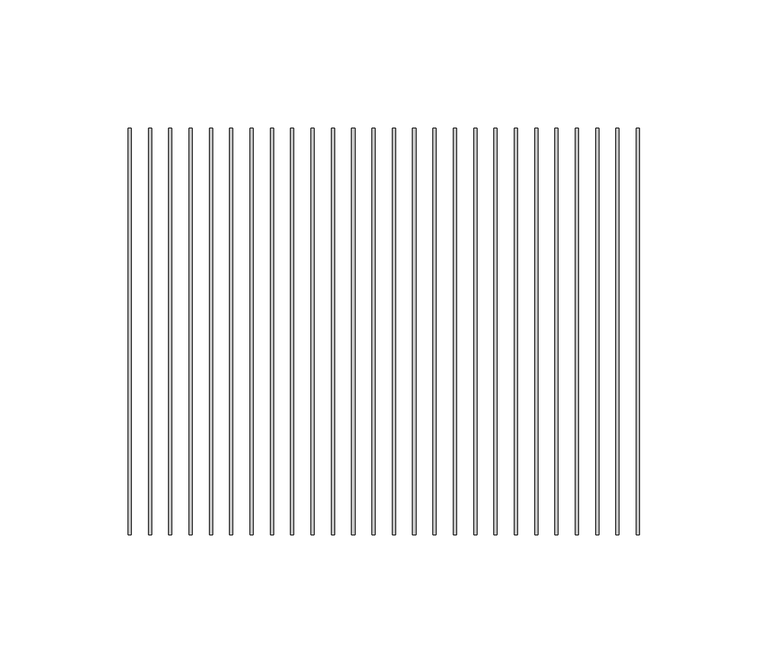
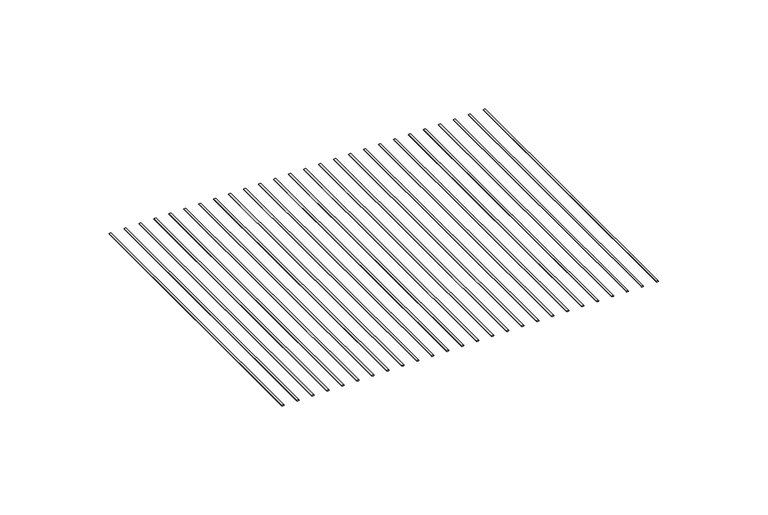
"""IFC4 building model written with IfcOpenShell, lengths in millimetres: proxy geometry, CRAi Generic Model Mesh Piece Face Based : CRAi Generic Model Mesh Piece Face Based."""

from ifc_helpers import new_model, si_unit, point, frame, origin, place, context, project, spatial, ellipse_curve, trimmed, source, transform, mapped, element, save
from ifc_brep_helpers import plane_surface, extruded_surface, advanced_brep


def generic_models_4f6b713c(model_context):
    return source(origin(), model_context, "Body", "AdvancedBrep", [
        advanced_brep(
        [(-196.6515625, 79.3253906, -2.5796875), (-195.4609375, 79.3253906, -2.5796875), (-196.6515625, -79.3253906, -2.5796875), (-195.4609375, -79.3253906, -2.5796875)],
        [
            (0, 1, ellipse_curve(frame((-196.05625, 79.3253906, -2.5796875), z_axis=(0.0, 1.0, 0.0), x_axis=(1.0, 0.0, 0.0)), 0.5953125, 0.1984375)),
            (1, 0, ellipse_curve(frame((-196.05625, 79.3253906, -2.5796875), z_axis=(0.0, 1.0, 0.0), x_axis=(1.0, 0.0, 0.0)), 0.5953125, 0.1984375)),
            (2, 3, ellipse_curve(frame((-196.05625, -79.3253906, -2.5796875), z_axis=(0.0, -1.0, 0.0), x_axis=(1.0, 0.0, 0.0)), 0.5953125, 0.1984375)),
            (3, 2, ellipse_curve(frame((-196.05625, -79.3253906, -2.5796875), z_axis=(0.0, -1.0, 0.0), x_axis=(1.0, 0.0, 0.0)), 0.5953125, 0.1984375)),
            (1, 3),
            (2, 0),
        ],
        [
            plane_surface(frame((-196.05625, 79.3253906, -2.5796875), z_axis=(0.0, 1.0, 0.0), x_axis=(0.0, 0.0, 1.0))),
            plane_surface(frame((-196.05625, -79.3253906, -2.5796875), z_axis=(0.0, -1.0, 0.0), x_axis=(0.0, 0.0, 1.0))),
            extruded_surface(trimmed(ellipse_curve(frame((-196.05625, 79.3253906, -2.5796875), z_axis=(0.0, -1.0, 0.0), x_axis=(1.0, 0.0, 0.0)), 0.5953125, 0.1984375), [point((-196.6515625, 79.3253906, -2.5796875))], [point((-195.4609375, 79.3253906, -2.5796875))], True, "CARTESIAN"), (0.0, -158.6507812, 0.0), 158.6507812),
            extruded_surface(trimmed(ellipse_curve(frame((-196.05625, 79.3253906, -2.5796875), z_axis=(0.0, -1.0, 0.0), x_axis=(1.0, 0.0, 0.0)), 0.5953125, 0.1984375), [point((-195.4609375, 79.3253906, -2.5796875))], [point((-196.6515625, 79.3253906, -2.5796875))], True, "CARTESIAN"), (0.0, -158.6507812, 0.0), 158.6507812),
        ],
        [
            (0, [[1, 2]]),
            (1, [[3, 4]]),
            (2, [[5, -3, 6, -2]]),
            (3, [[-6, -4, -5, -1]]),
        ],
    ),
        advanced_brep(
        [(-188.7140625, 79.3253906, -2.5796875), (-187.5234375, 79.3253906, -2.5796875), (-188.7140625, -79.3253906, -2.5796875), (-187.5234375, -79.3253906, -2.5796875)],
        [
            (0, 1, ellipse_curve(frame((-188.11875, 79.3253906, -2.5796875), z_axis=(0.0, 1.0, 0.0), x_axis=(1.0, 0.0, 0.0)), 0.5953125, 0.1984375)),
            (1, 0, ellipse_curve(frame((-188.11875, 79.3253906, -2.5796875), z_axis=(0.0, 1.0, 0.0), x_axis=(1.0, 0.0, 0.0)), 0.5953125, 0.1984375)),
            (2, 3, ellipse_curve(frame((-188.11875, -79.3253906, -2.5796875), z_axis=(0.0, -1.0, 0.0), x_axis=(1.0, 0.0, 0.0)), 0.5953125, 0.1984375)),
            (3, 2, ellipse_curve(frame((-188.11875, -79.3253906, -2.5796875), z_axis=(0.0, -1.0, 0.0), x_axis=(1.0, 0.0, 0.0)), 0.5953125, 0.1984375)),
            (1, 3),
            (2, 0),
        ],
        [
            plane_surface(frame((-188.11875, 79.3253906, -2.5796875), z_axis=(0.0, 1.0, 0.0), x_axis=(0.0, 0.0, 1.0))),
            plane_surface(frame((-188.11875, -79.3253906, -2.5796875), z_axis=(0.0, -1.0, 0.0), x_axis=(0.0, 0.0, 1.0))),
            extruded_surface(trimmed(ellipse_curve(frame((-188.11875, 79.3253906, -2.5796875), z_axis=(0.0, -1.0, 0.0), x_axis=(1.0, 0.0, 0.0)), 0.5953125, 0.1984375), [point((-188.7140625, 79.3253906, -2.5796875))], [point((-187.5234375, 79.3253906, -2.5796875))], True, "CARTESIAN"), (0.0, -158.6507812, 0.0), 158.6507812),
            extruded_surface(trimmed(ellipse_curve(frame((-188.11875, 79.3253906, -2.5796875), z_axis=(0.0, -1.0, 0.0), x_axis=(1.0, 0.0, 0.0)), 0.5953125, 0.1984375), [point((-187.5234375, 79.3253906, -2.5796875))], [point((-188.7140625, 79.3253906, -2.5796875))], True, "CARTESIAN"), (0.0, -158.6507812, 0.0), 158.6507812),
        ],
        [
            (0, [[1, 2]]),
            (1, [[3, 4]]),
            (2, [[5, -3, 6, -2]]),
            (3, [[-6, -4, -5, -1]]),
        ],
    ),
        advanced_brep(
        [(-180.7765625, 79.3253906, -2.5796875), (-179.5859375, 79.3253906, -2.5796875), (-180.7765625, -79.3253906, -2.5796875), (-179.5859375, -79.3253906, -2.5796875)],
        [
            (0, 1, ellipse_curve(frame((-180.18125, 79.3253906, -2.5796875), z_axis=(0.0, 1.0, 0.0), x_axis=(1.0, 0.0, 0.0)), 0.5953125, 0.1984375)),
            (1, 0, ellipse_curve(frame((-180.18125, 79.3253906, -2.5796875), z_axis=(0.0, 1.0, 0.0), x_axis=(1.0, 0.0, 0.0)), 0.5953125, 0.1984375)),
            (2, 3, ellipse_curve(frame((-180.18125, -79.3253906, -2.5796875), z_axis=(0.0, -1.0, 0.0), x_axis=(1.0, 0.0, 0.0)), 0.5953125, 0.1984375)),
            (3, 2, ellipse_curve(frame((-180.18125, -79.3253906, -2.5796875), z_axis=(0.0, -1.0, 0.0), x_axis=(1.0, 0.0, 0.0)), 0.5953125, 0.1984375)),
            (1, 3),
            (2, 0),
        ],
        [
            plane_surface(frame((-180.18125, 79.3253906, -2.5796875), z_axis=(0.0, 1.0, 0.0), x_axis=(0.0, 0.0, 1.0))),
            plane_surface(frame((-180.18125, -79.3253906, -2.5796875), z_axis=(0.0, -1.0, 0.0), x_axis=(0.0, 0.0, 1.0))),
            extruded_surface(trimmed(ellipse_curve(frame((-180.18125, 79.3253906, -2.5796875), z_axis=(0.0, -1.0, 0.0), x_axis=(1.0, 0.0, 0.0)), 0.5953125, 0.1984375), [point((-180.7765625, 79.3253906, -2.5796875))], [point((-179.5859375, 79.3253906, -2.5796875))], True, "CARTESIAN"), (0.0, -158.6507812, 0.0), 158.6507812),
            extruded_surface(trimmed(ellipse_curve(frame((-180.18125, 79.3253906, -2.5796875), z_axis=(0.0, -1.0, 0.0), x_axis=(1.0, 0.0, 0.0)), 0.5953125, 0.1984375), [point((-179.5859375, 79.3253906, -2.5796875))], [point((-180.7765625, 79.3253906, -2.5796875))], True, "CARTESIAN"), (0.0, -158.6507812, 0.0), 158.6507812),
        ],
        [
            (0, [[1, 2]]),
            (1, [[3, 4]]),
            (2, [[5, -3, 6, -2]]),
            (3, [[-6, -4, -5, -1]]),
        ],
    ),
        advanced_brep(
        [(-172.8390625, 79.3253906, -2.5796875), (-171.6484375, 79.3253906, -2.5796875), (-172.8390625, -79.3253906, -2.5796875), (-171.6484375, -79.3253906, -2.5796875)],
        [
            (0, 1, ellipse_curve(frame((-172.24375, 79.3253906, -2.5796875), z_axis=(0.0, 1.0, 0.0), x_axis=(1.0, 0.0, 0.0)), 0.5953125, 0.1984375)),
            (1, 0, ellipse_curve(frame((-172.24375, 79.3253906, -2.5796875), z_axis=(0.0, 1.0, 0.0), x_axis=(1.0, 0.0, 0.0)), 0.5953125, 0.1984375)),
            (2, 3, ellipse_curve(frame((-172.24375, -79.3253906, -2.5796875), z_axis=(0.0, -1.0, 0.0), x_axis=(1.0, 0.0, 0.0)), 0.5953125, 0.1984375)),
            (3, 2, ellipse_curve(frame((-172.24375, -79.3253906, -2.5796875), z_axis=(0.0, -1.0, 0.0), x_axis=(1.0, 0.0, 0.0)), 0.5953125, 0.1984375)),
            (1, 3),
            (2, 0),
        ],
        [
            plane_surface(frame((-172.24375, 79.3253906, -2.5796875), z_axis=(0.0, 1.0, 0.0), x_axis=(0.0, 0.0, 1.0))),
            plane_surface(frame((-172.24375, -79.3253906, -2.5796875), z_axis=(0.0, -1.0, 0.0), x_axis=(0.0, 0.0, 1.0))),
            extruded_surface(trimmed(ellipse_curve(frame((-172.24375, 79.3253906, -2.5796875), z_axis=(0.0, -1.0, 0.0), x_axis=(1.0, 0.0, 0.0)), 0.5953125, 0.1984375), [point((-172.8390625, 79.3253906, -2.5796875))], [point((-171.6484375, 79.3253906, -2.5796875))], True, "CARTESIAN"), (0.0, -158.6507812, 0.0), 158.6507812),
            extruded_surface(trimmed(ellipse_curve(frame((-172.24375, 79.3253906, -2.5796875), z_axis=(0.0, -1.0, 0.0), x_axis=(1.0, 0.0, 0.0)), 0.5953125, 0.1984375), [point((-171.6484375, 79.3253906, -2.5796875))], [point((-172.8390625, 79.3253906, -2.5796875))], True, "CARTESIAN"), (0.0, -158.6507812, 0.0), 158.6507812),
        ],
        [
            (0, [[1, 2]]),
            (1, [[3, 4]]),
            (2, [[5, -3, 6, -2]]),
            (3, [[-6, -4, -5, -1]]),
        ],
    ),
        advanced_brep(
        [(-164.9015625, 79.3253906, -2.5796875), (-163.7109375, 79.3253906, -2.5796875), (-164.9015625, -79.3253906, -2.5796875), (-163.7109375, -79.3253906, -2.5796875)],
        [
            (0, 1, ellipse_curve(frame((-164.30625, 79.3253906, -2.5796875), z_axis=(0.0, 1.0, 0.0), x_axis=(1.0, 0.0, 0.0)), 0.5953125, 0.1984375)),
            (1, 0, ellipse_curve(frame((-164.30625, 79.3253906, -2.5796875), z_axis=(0.0, 1.0, 0.0), x_axis=(1.0, 0.0, 0.0)), 0.5953125, 0.1984375)),
            (2, 3, ellipse_curve(frame((-164.30625, -79.3253906, -2.5796875), z_axis=(0.0, -1.0, 0.0), x_axis=(1.0, 0.0, 0.0)), 0.5953125, 0.1984375)),
            (3, 2, ellipse_curve(frame((-164.30625, -79.3253906, -2.5796875), z_axis=(0.0, -1.0, 0.0), x_axis=(1.0, 0.0, 0.0)), 0.5953125, 0.1984375)),
            (1, 3),
            (2, 0),
        ],
        [
            plane_surface(frame((-164.30625, 79.3253906, -2.5796875), z_axis=(0.0, 1.0, 0.0), x_axis=(0.0, 0.0, 1.0))),
            plane_surface(frame((-164.30625, -79.3253906, -2.5796875), z_axis=(0.0, -1.0, 0.0), x_axis=(0.0, 0.0, 1.0))),
            extruded_surface(trimmed(ellipse_curve(frame((-164.30625, 79.3253906, -2.5796875), z_axis=(0.0, -1.0, 0.0), x_axis=(1.0, 0.0, 0.0)), 0.5953125, 0.1984375), [point((-164.9015625, 79.3253906, -2.5796875))], [point((-163.7109375, 79.3253906, -2.5796875))], True, "CARTESIAN"), (0.0, -158.6507812, 0.0), 158.6507812),
            extruded_surface(trimmed(ellipse_curve(frame((-164.30625, 79.3253906, -2.5796875), z_axis=(0.0, -1.0, 0.0), x_axis=(1.0, 0.0, 0.0)), 0.5953125, 0.1984375), [point((-163.7109375, 79.3253906, -2.5796875))], [point((-164.9015625, 79.3253906, -2.5796875))], True, "CARTESIAN"), (0.0, -158.6507812, 0.0), 158.6507812),
        ],
        [
            (0, [[1, 2]]),
            (1, [[3, 4]]),
            (2, [[5, -3, 6, -2]]),
            (3, [[-6, -4, -5, -1]]),
        ],
    ),
        advanced_brep(
        [(-156.9640625, 79.3253906, -2.5796875), (-155.7734375, 79.3253906, -2.5796875), (-156.9640625, -79.3253906, -2.5796875), (-155.7734375, -79.3253906, -2.5796875)],
        [
            (0, 1, ellipse_curve(frame((-156.36875, 79.3253906, -2.5796875), z_axis=(0.0, 1.0, 0.0), x_axis=(1.0, 0.0, 0.0)), 0.5953125, 0.1984375)),
            (1, 0, ellipse_curve(frame((-156.36875, 79.3253906, -2.5796875), z_axis=(0.0, 1.0, 0.0), x_axis=(1.0, 0.0, 0.0)), 0.5953125, 0.1984375)),
            (2, 3, ellipse_curve(frame((-156.36875, -79.3253906, -2.5796875), z_axis=(0.0, -1.0, 0.0), x_axis=(1.0, 0.0, 0.0)), 0.5953125, 0.1984375)),
            (3, 2, ellipse_curve(frame((-156.36875, -79.3253906, -2.5796875), z_axis=(0.0, -1.0, 0.0), x_axis=(1.0, 0.0, 0.0)), 0.5953125, 0.1984375)),
            (1, 3),
            (2, 0),
        ],
        [
            plane_surface(frame((-156.36875, 79.3253906, -2.5796875), z_axis=(0.0, 1.0, 0.0), x_axis=(0.0, 0.0, 1.0))),
            plane_surface(frame((-156.36875, -79.3253906, -2.5796875), z_axis=(0.0, -1.0, 0.0), x_axis=(0.0, 0.0, 1.0))),
            extruded_surface(trimmed(ellipse_curve(frame((-156.36875, 79.3253906, -2.5796875), z_axis=(0.0, -1.0, 0.0), x_axis=(1.0, 0.0, 0.0)), 0.5953125, 0.1984375), [point((-156.9640625, 79.3253906, -2.5796875))], [point((-155.7734375, 79.3253906, -2.5796875))], True, "CARTESIAN"), (0.0, -158.6507812, 0.0), 158.6507812),
            extruded_surface(trimmed(ellipse_curve(frame((-156.36875, 79.3253906, -2.5796875), z_axis=(0.0, -1.0, 0.0), x_axis=(1.0, 0.0, 0.0)), 0.5953125, 0.1984375), [point((-155.7734375, 79.3253906, -2.5796875))], [point((-156.9640625, 79.3253906, -2.5796875))], True, "CARTESIAN"), (0.0, -158.6507812, 0.0), 158.6507812),
        ],
        [
            (0, [[1, 2]]),
            (1, [[3, 4]]),
            (2, [[5, -3, 6, -2]]),
            (3, [[-6, -4, -5, -1]]),
        ],
    ),
        advanced_brep(
        [(-149.0265625, 79.3253906, -2.5796875), (-147.8359375, 79.3253906, -2.5796875), (-149.0265625, -79.3253906, -2.5796875), (-147.8359375, -79.3253906, -2.5796875)],
        [
            (0, 1, ellipse_curve(frame((-148.43125, 79.3253906, -2.5796875), z_axis=(0.0, 1.0, 0.0), x_axis=(1.0, 0.0, 0.0)), 0.5953125, 0.1984375)),
            (1, 0, ellipse_curve(frame((-148.43125, 79.3253906, -2.5796875), z_axis=(0.0, 1.0, 0.0), x_axis=(1.0, 0.0, 0.0)), 0.5953125, 0.1984375)),
            (2, 3, ellipse_curve(frame((-148.43125, -79.3253906, -2.5796875), z_axis=(0.0, -1.0, 0.0), x_axis=(1.0, 0.0, 0.0)), 0.5953125, 0.1984375)),
            (3, 2, ellipse_curve(frame((-148.43125, -79.3253906, -2.5796875), z_axis=(0.0, -1.0, 0.0), x_axis=(1.0, 0.0, 0.0)), 0.5953125, 0.1984375)),
            (1, 3),
            (2, 0),
        ],
        [
            plane_surface(frame((-148.43125, 79.3253906, -2.5796875), z_axis=(0.0, 1.0, 0.0), x_axis=(0.0, 0.0, 1.0))),
            plane_surface(frame((-148.43125, -79.3253906, -2.5796875), z_axis=(0.0, -1.0, 0.0), x_axis=(0.0, 0.0, 1.0))),
            extruded_surface(trimmed(ellipse_curve(frame((-148.43125, 79.3253906, -2.5796875), z_axis=(0.0, -1.0, 0.0), x_axis=(1.0, 0.0, 0.0)), 0.5953125, 0.1984375), [point((-149.0265625, 79.3253906, -2.5796875))], [point((-147.8359375, 79.3253906, -2.5796875))], True, "CARTESIAN"), (0.0, -158.6507812, 0.0), 158.6507812),
            extruded_surface(trimmed(ellipse_curve(frame((-148.43125, 79.3253906, -2.5796875), z_axis=(0.0, -1.0, 0.0), x_axis=(1.0, 0.0, 0.0)), 0.5953125, 0.1984375), [point((-147.8359375, 79.3253906, -2.5796875))], [point((-149.0265625, 79.3253906, -2.5796875))], True, "CARTESIAN"), (0.0, -158.6507812, 0.0), 158.6507812),
        ],
        [
            (0, [[1, 2]]),
            (1, [[3, 4]]),
            (2, [[5, -3, 6, -2]]),
            (3, [[-6, -4, -5, -1]]),
        ],
    ),
        advanced_brep(
        [(-141.0890625, 79.3253906, -2.5796875), (-139.8984375, 79.3253906, -2.5796875), (-141.0890625, -79.3253906, -2.5796875), (-139.8984375, -79.3253906, -2.5796875)],
        [
            (0, 1, ellipse_curve(frame((-140.49375, 79.3253906, -2.5796875), z_axis=(0.0, 1.0, 0.0), x_axis=(1.0, 0.0, 0.0)), 0.5953125, 0.1984375)),
            (1, 0, ellipse_curve(frame((-140.49375, 79.3253906, -2.5796875), z_axis=(0.0, 1.0, 0.0), x_axis=(1.0, 0.0, 0.0)), 0.5953125, 0.1984375)),
            (2, 3, ellipse_curve(frame((-140.49375, -79.3253906, -2.5796875), z_axis=(0.0, -1.0, 0.0), x_axis=(1.0, 0.0, 0.0)), 0.5953125, 0.1984375)),
            (3, 2, ellipse_curve(frame((-140.49375, -79.3253906, -2.5796875), z_axis=(0.0, -1.0, 0.0), x_axis=(1.0, 0.0, 0.0)), 0.5953125, 0.1984375)),
            (1, 3),
            (2, 0),
        ],
        [
            plane_surface(frame((-140.49375, 79.3253906, -2.5796875), z_axis=(0.0, 1.0, 0.0), x_axis=(0.0, 0.0, 1.0))),
            plane_surface(frame((-140.49375, -79.3253906, -2.5796875), z_axis=(0.0, -1.0, 0.0), x_axis=(0.0, 0.0, 1.0))),
            extruded_surface(trimmed(ellipse_curve(frame((-140.49375, 79.3253906, -2.5796875), z_axis=(0.0, -1.0, 0.0), x_axis=(1.0, 0.0, 0.0)), 0.5953125, 0.1984375), [point((-141.0890625, 79.3253906, -2.5796875))], [point((-139.8984375, 79.3253906, -2.5796875))], True, "CARTESIAN"), (0.0, -158.6507812, 0.0), 158.6507812),
            extruded_surface(trimmed(ellipse_curve(frame((-140.49375, 79.3253906, -2.5796875), z_axis=(0.0, -1.0, 0.0), x_axis=(1.0, 0.0, 0.0)), 0.5953125, 0.1984375), [point((-139.8984375, 79.3253906, -2.5796875))], [point((-141.0890625, 79.3253906, -2.5796875))], True, "CARTESIAN"), (0.0, -158.6507812, 0.0), 158.6507812),
        ],
        [
            (0, [[1, 2]]),
            (1, [[3, 4]]),
            (2, [[5, -3, 6, -2]]),
            (3, [[-6, -4, -5, -1]]),
        ],
    ),
        advanced_brep(
        [(-133.1515625, 79.3253906, -2.5796875), (-131.9609375, 79.3253906, -2.5796875), (-133.1515625, -79.3253906, -2.5796875), (-131.9609375, -79.3253906, -2.5796875)],
        [
            (0, 1, ellipse_curve(frame((-132.55625, 79.3253906, -2.5796875), z_axis=(0.0, 1.0, 0.0), x_axis=(1.0, 0.0, 0.0)), 0.5953125, 0.1984375)),
            (1, 0, ellipse_curve(frame((-132.55625, 79.3253906, -2.5796875), z_axis=(0.0, 1.0, 0.0), x_axis=(1.0, 0.0, 0.0)), 0.5953125, 0.1984375)),
            (2, 3, ellipse_curve(frame((-132.55625, -79.3253906, -2.5796875), z_axis=(0.0, -1.0, 0.0), x_axis=(1.0, 0.0, 0.0)), 0.5953125, 0.1984375)),
            (3, 2, ellipse_curve(frame((-132.55625, -79.3253906, -2.5796875), z_axis=(0.0, -1.0, 0.0), x_axis=(1.0, 0.0, 0.0)), 0.5953125, 0.1984375)),
            (1, 3),
            (2, 0),
        ],
        [
            plane_surface(frame((-132.55625, 79.3253906, -2.5796875), z_axis=(0.0, 1.0, 0.0), x_axis=(0.0, 0.0, 1.0))),
            plane_surface(frame((-132.55625, -79.3253906, -2.5796875), z_axis=(0.0, -1.0, 0.0), x_axis=(0.0, 0.0, 1.0))),
            extruded_surface(trimmed(ellipse_curve(frame((-132.55625, 79.3253906, -2.5796875), z_axis=(0.0, -1.0, 0.0), x_axis=(1.0, 0.0, 0.0)), 0.5953125, 0.1984375), [point((-133.1515625, 79.3253906, -2.5796875))], [point((-131.9609375, 79.3253906, -2.5796875))], True, "CARTESIAN"), (0.0, -158.6507812, 0.0), 158.6507812),
            extruded_surface(trimmed(ellipse_curve(frame((-132.55625, 79.3253906, -2.5796875), z_axis=(0.0, -1.0, 0.0), x_axis=(1.0, 0.0, 0.0)), 0.5953125, 0.1984375), [point((-131.9609375, 79.3253906, -2.5796875))], [point((-133.1515625, 79.3253906, -2.5796875))], True, "CARTESIAN"), (0.0, -158.6507812, 0.0), 158.6507812),
        ],
        [
            (0, [[1, 2]]),
            (1, [[3, 4]]),
            (2, [[5, -3, 6, -2]]),
            (3, [[-6, -4, -5, -1]]),
        ],
    ),
        advanced_brep(
        [(-125.2140625, 79.3253906, -2.5796875), (-124.0234375, 79.3253906, -2.5796875), (-125.2140625, -79.3253906, -2.5796875), (-124.0234375, -79.3253906, -2.5796875)],
        [
            (0, 1, ellipse_curve(frame((-124.61875, 79.3253906, -2.5796875), z_axis=(0.0, 1.0, 0.0), x_axis=(1.0, 0.0, 0.0)), 0.5953125, 0.1984375)),
            (1, 0, ellipse_curve(frame((-124.61875, 79.3253906, -2.5796875), z_axis=(0.0, 1.0, 0.0), x_axis=(1.0, 0.0, 0.0)), 0.5953125, 0.1984375)),
            (2, 3, ellipse_curve(frame((-124.61875, -79.3253906, -2.5796875), z_axis=(0.0, -1.0, 0.0), x_axis=(1.0, 0.0, 0.0)), 0.5953125, 0.1984375)),
            (3, 2, ellipse_curve(frame((-124.61875, -79.3253906, -2.5796875), z_axis=(0.0, -1.0, 0.0), x_axis=(1.0, 0.0, 0.0)), 0.5953125, 0.1984375)),
            (1, 3),
            (2, 0),
        ],
        [
            plane_surface(frame((-124.61875, 79.3253906, -2.5796875), z_axis=(0.0, 1.0, 0.0), x_axis=(0.0, 0.0, 1.0))),
            plane_surface(frame((-124.61875, -79.3253906, -2.5796875), z_axis=(0.0, -1.0, 0.0), x_axis=(0.0, 0.0, 1.0))),
            extruded_surface(trimmed(ellipse_curve(frame((-124.61875, 79.3253906, -2.5796875), z_axis=(0.0, -1.0, 0.0), x_axis=(1.0, 0.0, 0.0)), 0.5953125, 0.1984375), [point((-125.2140625, 79.3253906, -2.5796875))], [point((-124.0234375, 79.3253906, -2.5796875))], True, "CARTESIAN"), (0.0, -158.6507812, 0.0), 158.6507812),
            extruded_surface(trimmed(ellipse_curve(frame((-124.61875, 79.3253906, -2.5796875), z_axis=(0.0, -1.0, 0.0), x_axis=(1.0, 0.0, 0.0)), 0.5953125, 0.1984375), [point((-124.0234375, 79.3253906, -2.5796875))], [point((-125.2140625, 79.3253906, -2.5796875))], True, "CARTESIAN"), (0.0, -158.6507812, 0.0), 158.6507812),
        ],
        [
            (0, [[1, 2]]),
            (1, [[3, 4]]),
            (2, [[5, -3, 6, -2]]),
            (3, [[-6, -4, -5, -1]]),
        ],
    ),
        advanced_brep(
        [(-117.2765625, 79.3253906, -2.5796875), (-116.0859375, 79.3253906, -2.5796875), (-117.2765625, -79.3253906, -2.5796875), (-116.0859375, -79.3253906, -2.5796875)],
        [
            (0, 1, ellipse_curve(frame((-116.68125, 79.3253906, -2.5796875), z_axis=(0.0, 1.0, 0.0), x_axis=(1.0, 0.0, 0.0)), 0.5953125, 0.1984375)),
            (1, 0, ellipse_curve(frame((-116.68125, 79.3253906, -2.5796875), z_axis=(0.0, 1.0, 0.0), x_axis=(1.0, 0.0, 0.0)), 0.5953125, 0.1984375)),
            (2, 3, ellipse_curve(frame((-116.68125, -79.3253906, -2.5796875), z_axis=(0.0, -1.0, 0.0), x_axis=(1.0, 0.0, 0.0)), 0.5953125, 0.1984375)),
            (3, 2, ellipse_curve(frame((-116.68125, -79.3253906, -2.5796875), z_axis=(0.0, -1.0, 0.0), x_axis=(1.0, 0.0, 0.0)), 0.5953125, 0.1984375)),
            (1, 3),
            (2, 0),
        ],
        [
            plane_surface(frame((-116.68125, 79.3253906, -2.5796875), z_axis=(0.0, 1.0, 0.0), x_axis=(0.0, 0.0, 1.0))),
            plane_surface(frame((-116.68125, -79.3253906, -2.5796875), z_axis=(0.0, -1.0, 0.0), x_axis=(0.0, 0.0, 1.0))),
            extruded_surface(trimmed(ellipse_curve(frame((-116.68125, 79.3253906, -2.5796875), z_axis=(0.0, -1.0, 0.0), x_axis=(1.0, 0.0, 0.0)), 0.5953125, 0.1984375), [point((-117.2765625, 79.3253906, -2.5796875))], [point((-116.0859375, 79.3253906, -2.5796875))], True, "CARTESIAN"), (0.0, -158.6507812, 0.0), 158.6507812),
            extruded_surface(trimmed(ellipse_curve(frame((-116.68125, 79.3253906, -2.5796875), z_axis=(0.0, -1.0, 0.0), x_axis=(1.0, 0.0, 0.0)), 0.5953125, 0.1984375), [point((-116.0859375, 79.3253906, -2.5796875))], [point((-117.2765625, 79.3253906, -2.5796875))], True, "CARTESIAN"), (0.0, -158.6507812, 0.0), 158.6507812),
        ],
        [
            (0, [[1, 2]]),
            (1, [[3, 4]]),
            (2, [[5, -3, 6, -2]]),
            (3, [[-6, -4, -5, -1]]),
        ],
    ),
        advanced_brep(
        [(-109.3390625, 79.3253906, -2.5796875), (-108.1484375, 79.3253906, -2.5796875), (-109.3390625, -79.3253906, -2.5796875), (-108.1484375, -79.3253906, -2.5796875)],
        [
            (0, 1, ellipse_curve(frame((-108.74375, 79.3253906, -2.5796875), z_axis=(0.0, 1.0, 0.0), x_axis=(1.0, 0.0, 0.0)), 0.5953125, 0.1984375)),
            (1, 0, ellipse_curve(frame((-108.74375, 79.3253906, -2.5796875), z_axis=(0.0, 1.0, 0.0), x_axis=(1.0, 0.0, 0.0)), 0.5953125, 0.1984375)),
            (2, 3, ellipse_curve(frame((-108.74375, -79.3253906, -2.5796875), z_axis=(0.0, -1.0, 0.0), x_axis=(1.0, 0.0, 0.0)), 0.5953125, 0.1984375)),
            (3, 2, ellipse_curve(frame((-108.74375, -79.3253906, -2.5796875), z_axis=(0.0, -1.0, 0.0), x_axis=(1.0, 0.0, 0.0)), 0.5953125, 0.1984375)),
            (1, 3),
            (2, 0),
        ],
        [
            plane_surface(frame((-108.74375, 79.3253906, -2.5796875), z_axis=(0.0, 1.0, 0.0), x_axis=(0.0, 0.0, 1.0))),
            plane_surface(frame((-108.74375, -79.3253906, -2.5796875), z_axis=(0.0, -1.0, 0.0), x_axis=(0.0, 0.0, 1.0))),
            extruded_surface(trimmed(ellipse_curve(frame((-108.74375, 79.3253906, -2.5796875), z_axis=(0.0, -1.0, 0.0), x_axis=(1.0, 0.0, 0.0)), 0.5953125, 0.1984375), [point((-109.3390625, 79.3253906, -2.5796875))], [point((-108.1484375, 79.3253906, -2.5796875))], True, "CARTESIAN"), (0.0, -158.6507812, 0.0), 158.6507812),
            extruded_surface(trimmed(ellipse_curve(frame((-108.74375, 79.3253906, -2.5796875), z_axis=(0.0, -1.0, 0.0), x_axis=(1.0, 0.0, 0.0)), 0.5953125, 0.1984375), [point((-108.1484375, 79.3253906, -2.5796875))], [point((-109.3390625, 79.3253906, -2.5796875))], True, "CARTESIAN"), (0.0, -158.6507812, 0.0), 158.6507812),
        ],
        [
            (0, [[1, 2]]),
            (1, [[3, 4]]),
            (2, [[5, -3, 6, -2]]),
            (3, [[-6, -4, -5, -1]]),
        ],
    ),
        advanced_brep(
        [(-101.4015625, 79.3253906, -2.5796875), (-100.2109375, 79.3253906, -2.5796875), (-101.4015625, -79.3253906, -2.5796875), (-100.2109375, -79.3253906, -2.5796875)],
        [
            (0, 1, ellipse_curve(frame((-100.80625, 79.3253906, -2.5796875), z_axis=(0.0, 1.0, 0.0), x_axis=(1.0, 0.0, 0.0)), 0.5953125, 0.1984375)),
            (1, 0, ellipse_curve(frame((-100.80625, 79.3253906, -2.5796875), z_axis=(0.0, 1.0, 0.0), x_axis=(1.0, 0.0, 0.0)), 0.5953125, 0.1984375)),
            (2, 3, ellipse_curve(frame((-100.80625, -79.3253906, -2.5796875), z_axis=(0.0, -1.0, 0.0), x_axis=(1.0, 0.0, 0.0)), 0.5953125, 0.1984375)),
            (3, 2, ellipse_curve(frame((-100.80625, -79.3253906, -2.5796875), z_axis=(0.0, -1.0, 0.0), x_axis=(1.0, 0.0, 0.0)), 0.5953125, 0.1984375)),
            (1, 3),
            (2, 0),
        ],
        [
            plane_surface(frame((-100.80625, 79.3253906, -2.5796875), z_axis=(0.0, 1.0, 0.0), x_axis=(0.0, 0.0, 1.0))),
            plane_surface(frame((-100.80625, -79.3253906, -2.5796875), z_axis=(0.0, -1.0, 0.0), x_axis=(0.0, 0.0, 1.0))),
            extruded_surface(trimmed(ellipse_curve(frame((-100.80625, 79.3253906, -2.5796875), z_axis=(0.0, -1.0, 0.0), x_axis=(1.0, 0.0, 0.0)), 0.5953125, 0.1984375), [point((-101.4015625, 79.3253906, -2.5796875))], [point((-100.2109375, 79.3253906, -2.5796875))], True, "CARTESIAN"), (0.0, -158.6507812, 0.0), 158.6507812),
            extruded_surface(trimmed(ellipse_curve(frame((-100.80625, 79.3253906, -2.5796875), z_axis=(0.0, -1.0, 0.0), x_axis=(1.0, 0.0, 0.0)), 0.5953125, 0.1984375), [point((-100.2109375, 79.3253906, -2.5796875))], [point((-101.4015625, 79.3253906, -2.5796875))], True, "CARTESIAN"), (0.0, -158.6507812, 0.0), 158.6507812),
        ],
        [
            (0, [[1, 2]]),
            (1, [[3, 4]]),
            (2, [[5, -3, 6, -2]]),
            (3, [[-6, -4, -5, -1]]),
        ],
    ),
        advanced_brep(
        [(-93.4640625, 79.3253906, -2.5796875), (-92.2734375, 79.3253906, -2.5796875), (-93.4640625, -79.3253906, -2.5796875), (-92.2734375, -79.3253906, -2.5796875)],
        [
            (0, 1, ellipse_curve(frame((-92.86875, 79.3253906, -2.5796875), z_axis=(0.0, 1.0, 0.0), x_axis=(1.0, 0.0, 0.0)), 0.5953125, 0.1984375)),
            (1, 0, ellipse_curve(frame((-92.86875, 79.3253906, -2.5796875), z_axis=(0.0, 1.0, 0.0), x_axis=(1.0, 0.0, 0.0)), 0.5953125, 0.1984375)),
            (2, 3, ellipse_curve(frame((-92.86875, -79.3253906, -2.5796875), z_axis=(0.0, -1.0, 0.0), x_axis=(1.0, 0.0, 0.0)), 0.5953125, 0.1984375)),
            (3, 2, ellipse_curve(frame((-92.86875, -79.3253906, -2.5796875), z_axis=(0.0, -1.0, 0.0), x_axis=(1.0, 0.0, 0.0)), 0.5953125, 0.1984375)),
            (1, 3),
            (2, 0),
        ],
        [
            plane_surface(frame((-92.86875, 79.3253906, -2.5796875), z_axis=(0.0, 1.0, 0.0), x_axis=(0.0, 0.0, 1.0))),
            plane_surface(frame((-92.86875, -79.3253906, -2.5796875), z_axis=(0.0, -1.0, 0.0), x_axis=(0.0, 0.0, 1.0))),
            extruded_surface(trimmed(ellipse_curve(frame((-92.86875, 79.3253906, -2.5796875), z_axis=(0.0, -1.0, 0.0), x_axis=(1.0, 0.0, 0.0)), 0.5953125, 0.1984375), [point((-93.4640625, 79.3253906, -2.5796875))], [point((-92.2734375, 79.3253906, -2.5796875))], True, "CARTESIAN"), (0.0, -158.6507812, 0.0), 158.6507812),
            extruded_surface(trimmed(ellipse_curve(frame((-92.86875, 79.3253906, -2.5796875), z_axis=(0.0, -1.0, 0.0), x_axis=(1.0, 0.0, 0.0)), 0.5953125, 0.1984375), [point((-92.2734375, 79.3253906, -2.5796875))], [point((-93.4640625, 79.3253906, -2.5796875))], True, "CARTESIAN"), (0.0, -158.6507812, 0.0), 158.6507812),
        ],
        [
            (0, [[1, 2]]),
            (1, [[3, 4]]),
            (2, [[5, -3, 6, -2]]),
            (3, [[-6, -4, -5, -1]]),
        ],
    ),
        advanced_brep(
        [(-85.5265625, 79.3253906, -2.5796875), (-84.3359375, 79.3253906, -2.5796875), (-85.5265625, -79.3253906, -2.5796875), (-84.3359375, -79.3253906, -2.5796875)],
        [
            (0, 1, ellipse_curve(frame((-84.93125, 79.3253906, -2.5796875), z_axis=(0.0, 1.0, 0.0), x_axis=(1.0, 0.0, 0.0)), 0.5953125, 0.1984375)),
            (1, 0, ellipse_curve(frame((-84.93125, 79.3253906, -2.5796875), z_axis=(0.0, 1.0, 0.0), x_axis=(1.0, 0.0, 0.0)), 0.5953125, 0.1984375)),
            (2, 3, ellipse_curve(frame((-84.93125, -79.3253906, -2.5796875), z_axis=(0.0, -1.0, 0.0), x_axis=(1.0, 0.0, 0.0)), 0.5953125, 0.1984375)),
            (3, 2, ellipse_curve(frame((-84.93125, -79.3253906, -2.5796875), z_axis=(0.0, -1.0, 0.0), x_axis=(1.0, 0.0, 0.0)), 0.5953125, 0.1984375)),
            (1, 3),
            (2, 0),
        ],
        [
            plane_surface(frame((-84.93125, 79.3253906, -2.5796875), z_axis=(0.0, 1.0, 0.0), x_axis=(0.0, 0.0, 1.0))),
            plane_surface(frame((-84.93125, -79.3253906, -2.5796875), z_axis=(0.0, -1.0, 0.0), x_axis=(0.0, 0.0, 1.0))),
            extruded_surface(trimmed(ellipse_curve(frame((-84.93125, 79.3253906, -2.5796875), z_axis=(0.0, -1.0, 0.0), x_axis=(1.0, 0.0, 0.0)), 0.5953125, 0.1984375), [point((-85.5265625, 79.3253906, -2.5796875))], [point((-84.3359375, 79.3253906, -2.5796875))], True, "CARTESIAN"), (0.0, -158.6507812, 0.0), 158.6507812),
            extruded_surface(trimmed(ellipse_curve(frame((-84.93125, 79.3253906, -2.5796875), z_axis=(0.0, -1.0, 0.0), x_axis=(1.0, 0.0, 0.0)), 0.5953125, 0.1984375), [point((-84.3359375, 79.3253906, -2.5796875))], [point((-85.5265625, 79.3253906, -2.5796875))], True, "CARTESIAN"), (0.0, -158.6507812, 0.0), 158.6507812),
        ],
        [
            (0, [[1, 2]]),
            (1, [[3, 4]]),
            (2, [[5, -3, 6, -2]]),
            (3, [[-6, -4, -5, -1]]),
        ],
    ),
        advanced_brep(
        [(-77.5890625, 79.3253906, -2.5796875), (-76.3984375, 79.3253906, -2.5796875), (-77.5890625, -79.3253906, -2.5796875), (-76.3984375, -79.3253906, -2.5796875)],
        [
            (0, 1, ellipse_curve(frame((-76.99375, 79.3253906, -2.5796875), z_axis=(0.0, 1.0, 0.0), x_axis=(1.0, 0.0, 0.0)), 0.5953125, 0.1984375)),
            (1, 0, ellipse_curve(frame((-76.99375, 79.3253906, -2.5796875), z_axis=(0.0, 1.0, 0.0), x_axis=(1.0, 0.0, 0.0)), 0.5953125, 0.1984375)),
            (2, 3, ellipse_curve(frame((-76.99375, -79.3253906, -2.5796875), z_axis=(0.0, -1.0, 0.0), x_axis=(1.0, 0.0, 0.0)), 0.5953125, 0.1984375)),
            (3, 2, ellipse_curve(frame((-76.99375, -79.3253906, -2.5796875), z_axis=(0.0, -1.0, 0.0), x_axis=(1.0, 0.0, 0.0)), 0.5953125, 0.1984375)),
            (1, 3),
            (2, 0),
        ],
        [
            plane_surface(frame((-76.99375, 79.3253906, -2.5796875), z_axis=(0.0, 1.0, 0.0), x_axis=(0.0, 0.0, 1.0))),
            plane_surface(frame((-76.99375, -79.3253906, -2.5796875), z_axis=(0.0, -1.0, 0.0), x_axis=(0.0, 0.0, 1.0))),
            extruded_surface(trimmed(ellipse_curve(frame((-76.99375, 79.3253906, -2.5796875), z_axis=(0.0, -1.0, 0.0), x_axis=(1.0, 0.0, 0.0)), 0.5953125, 0.1984375), [point((-77.5890625, 79.3253906, -2.5796875))], [point((-76.3984375, 79.3253906, -2.5796875))], True, "CARTESIAN"), (0.0, -158.6507812, 0.0), 158.6507812),
            extruded_surface(trimmed(ellipse_curve(frame((-76.99375, 79.3253906, -2.5796875), z_axis=(0.0, -1.0, 0.0), x_axis=(1.0, 0.0, 0.0)), 0.5953125, 0.1984375), [point((-76.3984375, 79.3253906, -2.5796875))], [point((-77.5890625, 79.3253906, -2.5796875))], True, "CARTESIAN"), (0.0, -158.6507812, 0.0), 158.6507812),
        ],
        [
            (0, [[1, 2]]),
            (1, [[3, 4]]),
            (2, [[5, -3, 6, -2]]),
            (3, [[-6, -4, -5, -1]]),
        ],
    ),
        advanced_brep(
        [(-69.6515625, 79.3253906, -2.5796875), (-68.4609375, 79.3253906, -2.5796875), (-69.6515625, -79.3253906, -2.5796875), (-68.4609375, -79.3253906, -2.5796875)],
        [
            (0, 1, ellipse_curve(frame((-69.05625, 79.3253906, -2.5796875), z_axis=(0.0, 1.0, 0.0), x_axis=(1.0, 0.0, 0.0)), 0.5953125, 0.1984375)),
            (1, 0, ellipse_curve(frame((-69.05625, 79.3253906, -2.5796875), z_axis=(0.0, 1.0, 0.0), x_axis=(1.0, 0.0, 0.0)), 0.5953125, 0.1984375)),
            (2, 3, ellipse_curve(frame((-69.05625, -79.3253906, -2.5796875), z_axis=(0.0, -1.0, 0.0), x_axis=(1.0, 0.0, 0.0)), 0.5953125, 0.1984375)),
            (3, 2, ellipse_curve(frame((-69.05625, -79.3253906, -2.5796875), z_axis=(0.0, -1.0, 0.0), x_axis=(1.0, 0.0, 0.0)), 0.5953125, 0.1984375)),
            (1, 3),
            (2, 0),
        ],
        [
            plane_surface(frame((-69.05625, 79.3253906, -2.5796875), z_axis=(0.0, 1.0, 0.0), x_axis=(0.0, 0.0, 1.0))),
            plane_surface(frame((-69.05625, -79.3253906, -2.5796875), z_axis=(0.0, -1.0, 0.0), x_axis=(0.0, 0.0, 1.0))),
            extruded_surface(trimmed(ellipse_curve(frame((-69.05625, 79.3253906, -2.5796875), z_axis=(0.0, -1.0, 0.0), x_axis=(1.0, 0.0, 0.0)), 0.5953125, 0.1984375), [point((-69.6515625, 79.3253906, -2.5796875))], [point((-68.4609375, 79.3253906, -2.5796875))], True, "CARTESIAN"), (0.0, -158.6507812, 0.0), 158.6507812),
            extruded_surface(trimmed(ellipse_curve(frame((-69.05625, 79.3253906, -2.5796875), z_axis=(0.0, -1.0, 0.0), x_axis=(1.0, 0.0, 0.0)), 0.5953125, 0.1984375), [point((-68.4609375, 79.3253906, -2.5796875))], [point((-69.6515625, 79.3253906, -2.5796875))], True, "CARTESIAN"), (0.0, -158.6507812, 0.0), 158.6507812),
        ],
        [
            (0, [[1, 2]]),
            (1, [[3, 4]]),
            (2, [[5, -3, 6, -2]]),
            (3, [[-6, -4, -5, -1]]),
        ],
    ),
        advanced_brep(
        [(-61.7140625, 79.3253906, -2.5796875), (-60.5234375, 79.3253906, -2.5796875), (-61.7140625, -79.3253906, -2.5796875), (-60.5234375, -79.3253906, -2.5796875)],
        [
            (0, 1, ellipse_curve(frame((-61.11875, 79.3253906, -2.5796875), z_axis=(0.0, 1.0, 0.0), x_axis=(1.0, 0.0, 0.0)), 0.5953125, 0.1984375)),
            (1, 0, ellipse_curve(frame((-61.11875, 79.3253906, -2.5796875), z_axis=(0.0, 1.0, 0.0), x_axis=(1.0, 0.0, 0.0)), 0.5953125, 0.1984375)),
            (2, 3, ellipse_curve(frame((-61.11875, -79.3253906, -2.5796875), z_axis=(0.0, -1.0, 0.0), x_axis=(1.0, 0.0, 0.0)), 0.5953125, 0.1984375)),
            (3, 2, ellipse_curve(frame((-61.11875, -79.3253906, -2.5796875), z_axis=(0.0, -1.0, 0.0), x_axis=(1.0, 0.0, 0.0)), 0.5953125, 0.1984375)),
            (1, 3),
            (2, 0),
        ],
        [
            plane_surface(frame((-61.11875, 79.3253906, -2.5796875), z_axis=(0.0, 1.0, 0.0), x_axis=(0.0, 0.0, 1.0))),
            plane_surface(frame((-61.11875, -79.3253906, -2.5796875), z_axis=(0.0, -1.0, 0.0), x_axis=(0.0, 0.0, 1.0))),
            extruded_surface(trimmed(ellipse_curve(frame((-61.11875, 79.3253906, -2.5796875), z_axis=(0.0, -1.0, 0.0), x_axis=(1.0, 0.0, 0.0)), 0.5953125, 0.1984375), [point((-61.7140625, 79.3253906, -2.5796875))], [point((-60.5234375, 79.3253906, -2.5796875))], True, "CARTESIAN"), (0.0, -158.6507812, 0.0), 158.6507812),
            extruded_surface(trimmed(ellipse_curve(frame((-61.11875, 79.3253906, -2.5796875), z_axis=(0.0, -1.0, 0.0), x_axis=(1.0, 0.0, 0.0)), 0.5953125, 0.1984375), [point((-60.5234375, 79.3253906, -2.5796875))], [point((-61.7140625, 79.3253906, -2.5796875))], True, "CARTESIAN"), (0.0, -158.6507812, 0.0), 158.6507812),
        ],
        [
            (0, [[1, 2]]),
            (1, [[3, 4]]),
            (2, [[5, -3, 6, -2]]),
            (3, [[-6, -4, -5, -1]]),
        ],
    ),
        advanced_brep(
        [(-53.7765625, 79.3253906, -2.5796875), (-52.5859375, 79.3253906, -2.5796875), (-53.7765625, -79.3253906, -2.5796875), (-52.5859375, -79.3253906, -2.5796875)],
        [
            (0, 1, ellipse_curve(frame((-53.18125, 79.3253906, -2.5796875), z_axis=(0.0, 1.0, 0.0), x_axis=(1.0, 0.0, 0.0)), 0.5953125, 0.1984375)),
            (1, 0, ellipse_curve(frame((-53.18125, 79.3253906, -2.5796875), z_axis=(0.0, 1.0, 0.0), x_axis=(1.0, 0.0, 0.0)), 0.5953125, 0.1984375)),
            (2, 3, ellipse_curve(frame((-53.18125, -79.3253906, -2.5796875), z_axis=(0.0, -1.0, 0.0), x_axis=(1.0, 0.0, 0.0)), 0.5953125, 0.1984375)),
            (3, 2, ellipse_curve(frame((-53.18125, -79.3253906, -2.5796875), z_axis=(0.0, -1.0, 0.0), x_axis=(1.0, 0.0, 0.0)), 0.5953125, 0.1984375)),
            (1, 3),
            (2, 0),
        ],
        [
            plane_surface(frame((-53.18125, 79.3253906, -2.5796875), z_axis=(0.0, 1.0, 0.0), x_axis=(0.0, 0.0, 1.0))),
            plane_surface(frame((-53.18125, -79.3253906, -2.5796875), z_axis=(0.0, -1.0, 0.0), x_axis=(0.0, 0.0, 1.0))),
            extruded_surface(trimmed(ellipse_curve(frame((-53.18125, 79.3253906, -2.5796875), z_axis=(0.0, -1.0, 0.0), x_axis=(1.0, 0.0, 0.0)), 0.5953125, 0.1984375), [point((-53.7765625, 79.3253906, -2.5796875))], [point((-52.5859375, 79.3253906, -2.5796875))], True, "CARTESIAN"), (0.0, -158.6507812, 0.0), 158.6507812),
            extruded_surface(trimmed(ellipse_curve(frame((-53.18125, 79.3253906, -2.5796875), z_axis=(0.0, -1.0, 0.0), x_axis=(1.0, 0.0, 0.0)), 0.5953125, 0.1984375), [point((-52.5859375, 79.3253906, -2.5796875))], [point((-53.7765625, 79.3253906, -2.5796875))], True, "CARTESIAN"), (0.0, -158.6507812, 0.0), 158.6507812),
        ],
        [
            (0, [[1, 2]]),
            (1, [[3, 4]]),
            (2, [[5, -3, 6, -2]]),
            (3, [[-6, -4, -5, -1]]),
        ],
    ),
        advanced_brep(
        [(-45.8390625, 79.3253906, -2.5796875), (-44.6484375, 79.3253906, -2.5796875), (-45.8390625, -79.3253906, -2.5796875), (-44.6484375, -79.3253906, -2.5796875)],
        [
            (0, 1, ellipse_curve(frame((-45.24375, 79.3253906, -2.5796875), z_axis=(0.0, 1.0, 0.0), x_axis=(1.0, 0.0, 0.0)), 0.5953125, 0.1984375)),
            (1, 0, ellipse_curve(frame((-45.24375, 79.3253906, -2.5796875), z_axis=(0.0, 1.0, 0.0), x_axis=(1.0, 0.0, 0.0)), 0.5953125, 0.1984375)),
            (2, 3, ellipse_curve(frame((-45.24375, -79.3253906, -2.5796875), z_axis=(0.0, -1.0, 0.0), x_axis=(1.0, 0.0, 0.0)), 0.5953125, 0.1984375)),
            (3, 2, ellipse_curve(frame((-45.24375, -79.3253906, -2.5796875), z_axis=(0.0, -1.0, 0.0), x_axis=(1.0, 0.0, 0.0)), 0.5953125, 0.1984375)),
            (1, 3),
            (2, 0),
        ],
        [
            plane_surface(frame((-45.24375, 79.3253906, -2.5796875), z_axis=(0.0, 1.0, 0.0), x_axis=(0.0, 0.0, 1.0))),
            plane_surface(frame((-45.24375, -79.3253906, -2.5796875), z_axis=(0.0, -1.0, 0.0), x_axis=(0.0, 0.0, 1.0))),
            extruded_surface(trimmed(ellipse_curve(frame((-45.24375, 79.3253906, -2.5796875), z_axis=(0.0, -1.0, 0.0), x_axis=(1.0, 0.0, 0.0)), 0.5953125, 0.1984375), [point((-45.8390625, 79.3253906, -2.5796875))], [point((-44.6484375, 79.3253906, -2.5796875))], True, "CARTESIAN"), (0.0, -158.6507812, 0.0), 158.6507812),
            extruded_surface(trimmed(ellipse_curve(frame((-45.24375, 79.3253906, -2.5796875), z_axis=(0.0, -1.0, 0.0), x_axis=(1.0, 0.0, 0.0)), 0.5953125, 0.1984375), [point((-44.6484375, 79.3253906, -2.5796875))], [point((-45.8390625, 79.3253906, -2.5796875))], True, "CARTESIAN"), (0.0, -158.6507812, 0.0), 158.6507812),
        ],
        [
            (0, [[1, 2]]),
            (1, [[3, 4]]),
            (2, [[5, -3, 6, -2]]),
            (3, [[-6, -4, -5, -1]]),
        ],
    ),
        advanced_brep(
        [(-37.9015625, 79.3253906, -2.5796875), (-36.7109375, 79.3253906, -2.5796875), (-37.9015625, -79.3253906, -2.5796875), (-36.7109375, -79.3253906, -2.5796875)],
        [
            (0, 1, ellipse_curve(frame((-37.30625, 79.3253906, -2.5796875), z_axis=(0.0, 1.0, 0.0), x_axis=(1.0, 0.0, 0.0)), 0.5953125, 0.1984375)),
            (1, 0, ellipse_curve(frame((-37.30625, 79.3253906, -2.5796875), z_axis=(0.0, 1.0, 0.0), x_axis=(1.0, 0.0, 0.0)), 0.5953125, 0.1984375)),
            (2, 3, ellipse_curve(frame((-37.30625, -79.3253906, -2.5796875), z_axis=(0.0, -1.0, 0.0), x_axis=(1.0, 0.0, 0.0)), 0.5953125, 0.1984375)),
            (3, 2, ellipse_curve(frame((-37.30625, -79.3253906, -2.5796875), z_axis=(0.0, -1.0, 0.0), x_axis=(1.0, 0.0, 0.0)), 0.5953125, 0.1984375)),
            (1, 3),
            (2, 0),
        ],
        [
            plane_surface(frame((-37.30625, 79.3253906, -2.5796875), z_axis=(0.0, 1.0, 0.0), x_axis=(0.0, 0.0, 1.0))),
            plane_surface(frame((-37.30625, -79.3253906, -2.5796875), z_axis=(0.0, -1.0, 0.0), x_axis=(0.0, 0.0, 1.0))),
            extruded_surface(trimmed(ellipse_curve(frame((-37.30625, 79.3253906, -2.5796875), z_axis=(0.0, -1.0, 0.0), x_axis=(1.0, 0.0, 0.0)), 0.5953125, 0.1984375), [point((-37.9015625, 79.3253906, -2.5796875))], [point((-36.7109375, 79.3253906, -2.5796875))], True, "CARTESIAN"), (0.0, -158.6507812, 0.0), 158.6507812),
            extruded_surface(trimmed(ellipse_curve(frame((-37.30625, 79.3253906, -2.5796875), z_axis=(0.0, -1.0, 0.0), x_axis=(1.0, 0.0, 0.0)), 0.5953125, 0.1984375), [point((-36.7109375, 79.3253906, -2.5796875))], [point((-37.9015625, 79.3253906, -2.5796875))], True, "CARTESIAN"), (0.0, -158.6507812, 0.0), 158.6507812),
        ],
        [
            (0, [[1, 2]]),
            (1, [[3, 4]]),
            (2, [[5, -3, 6, -2]]),
            (3, [[-6, -4, -5, -1]]),
        ],
    ),
        advanced_brep(
        [(-29.9640625, 79.3253906, -2.5796875), (-28.7734375, 79.3253906, -2.5796875), (-29.9640625, -79.3253906, -2.5796875), (-28.7734375, -79.3253906, -2.5796875)],
        [
            (0, 1, ellipse_curve(frame((-29.36875, 79.3253906, -2.5796875), z_axis=(0.0, 1.0, 0.0), x_axis=(1.0, 0.0, 0.0)), 0.5953125, 0.1984375)),
            (1, 0, ellipse_curve(frame((-29.36875, 79.3253906, -2.5796875), z_axis=(0.0, 1.0, 0.0), x_axis=(1.0, 0.0, 0.0)), 0.5953125, 0.1984375)),
            (2, 3, ellipse_curve(frame((-29.36875, -79.3253906, -2.5796875), z_axis=(0.0, -1.0, 0.0), x_axis=(1.0, 0.0, 0.0)), 0.5953125, 0.1984375)),
            (3, 2, ellipse_curve(frame((-29.36875, -79.3253906, -2.5796875), z_axis=(0.0, -1.0, 0.0), x_axis=(1.0, 0.0, 0.0)), 0.5953125, 0.1984375)),
            (1, 3),
            (2, 0),
        ],
        [
            plane_surface(frame((-29.36875, 79.3253906, -2.5796875), z_axis=(0.0, 1.0, 0.0), x_axis=(0.0, 0.0, 1.0))),
            plane_surface(frame((-29.36875, -79.3253906, -2.5796875), z_axis=(0.0, -1.0, 0.0), x_axis=(0.0, 0.0, 1.0))),
            extruded_surface(trimmed(ellipse_curve(frame((-29.36875, 79.3253906, -2.5796875), z_axis=(0.0, -1.0, 0.0), x_axis=(1.0, 0.0, 0.0)), 0.5953125, 0.1984375), [point((-29.9640625, 79.3253906, -2.5796875))], [point((-28.7734375, 79.3253906, -2.5796875))], True, "CARTESIAN"), (0.0, -158.6507812, 0.0), 158.6507812),
            extruded_surface(trimmed(ellipse_curve(frame((-29.36875, 79.3253906, -2.5796875), z_axis=(0.0, -1.0, 0.0), x_axis=(1.0, 0.0, 0.0)), 0.5953125, 0.1984375), [point((-28.7734375, 79.3253906, -2.5796875))], [point((-29.9640625, 79.3253906, -2.5796875))], True, "CARTESIAN"), (0.0, -158.6507812, 0.0), 158.6507812),
        ],
        [
            (0, [[1, 2]]),
            (1, [[3, 4]]),
            (2, [[5, -3, 6, -2]]),
            (3, [[-6, -4, -5, -1]]),
        ],
    ),
        advanced_brep(
        [(-22.0265625, 79.3253906, -2.5796875), (-20.8359375, 79.3253906, -2.5796875), (-22.0265625, -79.3253906, -2.5796875), (-20.8359375, -79.3253906, -2.5796875)],
        [
            (0, 1, ellipse_curve(frame((-21.43125, 79.3253906, -2.5796875), z_axis=(0.0, 1.0, 0.0), x_axis=(1.0, 0.0, 0.0)), 0.5953125, 0.1984375)),
            (1, 0, ellipse_curve(frame((-21.43125, 79.3253906, -2.5796875), z_axis=(0.0, 1.0, 0.0), x_axis=(1.0, 0.0, 0.0)), 0.5953125, 0.1984375)),
            (2, 3, ellipse_curve(frame((-21.43125, -79.3253906, -2.5796875), z_axis=(0.0, -1.0, 0.0), x_axis=(1.0, 0.0, 0.0)), 0.5953125, 0.1984375)),
            (3, 2, ellipse_curve(frame((-21.43125, -79.3253906, -2.5796875), z_axis=(0.0, -1.0, 0.0), x_axis=(1.0, 0.0, 0.0)), 0.5953125, 0.1984375)),
            (1, 3),
            (2, 0),
        ],
        [
            plane_surface(frame((-21.43125, 79.3253906, -2.5796875), z_axis=(0.0, 1.0, 0.0), x_axis=(0.0, 0.0, 1.0))),
            plane_surface(frame((-21.43125, -79.3253906, -2.5796875), z_axis=(0.0, -1.0, 0.0), x_axis=(0.0, 0.0, 1.0))),
            extruded_surface(trimmed(ellipse_curve(frame((-21.43125, 79.3253906, -2.5796875), z_axis=(0.0, -1.0, 0.0), x_axis=(1.0, 0.0, 0.0)), 0.5953125, 0.1984375), [point((-22.0265625, 79.3253906, -2.5796875))], [point((-20.8359375, 79.3253906, -2.5796875))], True, "CARTESIAN"), (0.0, -158.6507812, 0.0), 158.6507812),
            extruded_surface(trimmed(ellipse_curve(frame((-21.43125, 79.3253906, -2.5796875), z_axis=(0.0, -1.0, 0.0), x_axis=(1.0, 0.0, 0.0)), 0.5953125, 0.1984375), [point((-20.8359375, 79.3253906, -2.5796875))], [point((-22.0265625, 79.3253906, -2.5796875))], True, "CARTESIAN"), (0.0, -158.6507812, 0.0), 158.6507812),
        ],
        [
            (0, [[1, 2]]),
            (1, [[3, 4]]),
            (2, [[5, -3, 6, -2]]),
            (3, [[-6, -4, -5, -1]]),
        ],
    ),
        advanced_brep(
        [(-14.0890625, 79.3253906, -2.5796875), (-12.8984375, 79.3253906, -2.5796875), (-14.0890625, -79.3253906, -2.5796875), (-12.8984375, -79.3253906, -2.5796875)],
        [
            (0, 1, ellipse_curve(frame((-13.49375, 79.3253906, -2.5796875), z_axis=(0.0, 1.0, 0.0), x_axis=(1.0, 0.0, 0.0)), 0.5953125, 0.1984375)),
            (1, 0, ellipse_curve(frame((-13.49375, 79.3253906, -2.5796875), z_axis=(0.0, 1.0, 0.0), x_axis=(1.0, 0.0, 0.0)), 0.5953125, 0.1984375)),
            (2, 3, ellipse_curve(frame((-13.49375, -79.3253906, -2.5796875), z_axis=(0.0, -1.0, 0.0), x_axis=(1.0, 0.0, 0.0)), 0.5953125, 0.1984375)),
            (3, 2, ellipse_curve(frame((-13.49375, -79.3253906, -2.5796875), z_axis=(0.0, -1.0, 0.0), x_axis=(1.0, 0.0, 0.0)), 0.5953125, 0.1984375)),
            (1, 3),
            (2, 0),
        ],
        [
            plane_surface(frame((-13.49375, 79.3253906, -2.5796875), z_axis=(0.0, 1.0, 0.0), x_axis=(0.0, 0.0, 1.0))),
            plane_surface(frame((-13.49375, -79.3253906, -2.5796875), z_axis=(0.0, -1.0, 0.0), x_axis=(0.0, 0.0, 1.0))),
            extruded_surface(trimmed(ellipse_curve(frame((-13.49375, 79.3253906, -2.5796875), z_axis=(0.0, -1.0, 0.0), x_axis=(1.0, 0.0, 0.0)), 0.5953125, 0.1984375), [point((-14.0890625, 79.3253906, -2.5796875))], [point((-12.8984375, 79.3253906, -2.5796875))], True, "CARTESIAN"), (0.0, -158.6507812, 0.0), 158.6507812),
            extruded_surface(trimmed(ellipse_curve(frame((-13.49375, 79.3253906, -2.5796875), z_axis=(0.0, -1.0, 0.0), x_axis=(1.0, 0.0, 0.0)), 0.5953125, 0.1984375), [point((-12.8984375, 79.3253906, -2.5796875))], [point((-14.0890625, 79.3253906, -2.5796875))], True, "CARTESIAN"), (0.0, -158.6507812, 0.0), 158.6507812),
        ],
        [
            (0, [[1, 2]]),
            (1, [[3, 4]]),
            (2, [[5, -3, 6, -2]]),
            (3, [[-6, -4, -5, -1]]),
        ],
    ),
        advanced_brep(
        [(-6.1515625, 79.3253906, -2.5796875), (-4.9609375, 79.3253906, -2.5796875), (-6.1515625, -79.3253906, -2.5796875), (-4.9609375, -79.3253906, -2.5796875)],
        [
            (0, 1, ellipse_curve(frame((-5.55625, 79.3253906, -2.5796875), z_axis=(0.0, 1.0, 0.0), x_axis=(1.0, 0.0, 0.0)), 0.5953125, 0.1984375)),
            (1, 0, ellipse_curve(frame((-5.55625, 79.3253906, -2.5796875), z_axis=(0.0, 1.0, 0.0), x_axis=(1.0, 0.0, 0.0)), 0.5953125, 0.1984375)),
            (2, 3, ellipse_curve(frame((-5.55625, -79.3253906, -2.5796875), z_axis=(0.0, -1.0, 0.0), x_axis=(1.0, 0.0, 0.0)), 0.5953125, 0.1984375)),
            (3, 2, ellipse_curve(frame((-5.55625, -79.3253906, -2.5796875), z_axis=(0.0, -1.0, 0.0), x_axis=(1.0, 0.0, 0.0)), 0.5953125, 0.1984375)),
            (1, 3),
            (2, 0),
        ],
        [
            plane_surface(frame((-5.55625, 79.3253906, -2.5796875), z_axis=(0.0, 1.0, 0.0), x_axis=(0.0, 0.0, 1.0))),
            plane_surface(frame((-5.55625, -79.3253906, -2.5796875), z_axis=(0.0, -1.0, 0.0), x_axis=(0.0, 0.0, 1.0))),
            extruded_surface(trimmed(ellipse_curve(frame((-5.55625, 79.3253906, -2.5796875), z_axis=(0.0, -1.0, 0.0), x_axis=(1.0, 0.0, 0.0)), 0.5953125, 0.1984375), [point((-6.1515625, 79.3253906, -2.5796875))], [point((-4.9609375, 79.3253906, -2.5796875))], True, "CARTESIAN"), (0.0, -158.6507812, 0.0), 158.6507812),
            extruded_surface(trimmed(ellipse_curve(frame((-5.55625, 79.3253906, -2.5796875), z_axis=(0.0, -1.0, 0.0), x_axis=(1.0, 0.0, 0.0)), 0.5953125, 0.1984375), [point((-4.9609375, 79.3253906, -2.5796875))], [point((-6.1515625, 79.3253906, -2.5796875))], True, "CARTESIAN"), (0.0, -158.6507812, 0.0), 158.6507812),
        ],
        [
            (0, [[1, 2]]),
            (1, [[3, 4]]),
            (2, [[5, -3, 6, -2]]),
            (3, [[-6, -4, -5, -1]]),
        ],
    ),
        advanced_brep(
        [(1.7859375, 79.3253906, -2.5796875), (2.9765625, 79.3253906, -2.5796875), (1.7859375, -79.3253906, -2.5796875), (2.9765625, -79.3253906, -2.5796875)],
        [
            (0, 1, ellipse_curve(frame((2.38125, 79.3253906, -2.5796875), z_axis=(0.0, 1.0, 0.0), x_axis=(1.0, 0.0, 0.0)), 0.5953125, 0.1984375)),
            (1, 0, ellipse_curve(frame((2.38125, 79.3253906, -2.5796875), z_axis=(0.0, 1.0, 0.0), x_axis=(1.0, 0.0, 0.0)), 0.5953125, 0.1984375)),
            (2, 3, ellipse_curve(frame((2.38125, -79.3253906, -2.5796875), z_axis=(0.0, -1.0, 0.0), x_axis=(1.0, 0.0, 0.0)), 0.5953125, 0.1984375)),
            (3, 2, ellipse_curve(frame((2.38125, -79.3253906, -2.5796875), z_axis=(0.0, -1.0, 0.0), x_axis=(1.0, 0.0, 0.0)), 0.5953125, 0.1984375)),
            (1, 3),
            (2, 0),
        ],
        [
            plane_surface(frame((2.38125, 79.3253906, -2.5796875), z_axis=(0.0, 1.0, 0.0), x_axis=(0.0, 0.0, 1.0))),
            plane_surface(frame((2.38125, -79.3253906, -2.5796875), z_axis=(0.0, -1.0, 0.0), x_axis=(0.0, 0.0, 1.0))),
            extruded_surface(trimmed(ellipse_curve(frame((2.38125, 79.3253906, -2.5796875), z_axis=(0.0, -1.0, 0.0), x_axis=(1.0, 0.0, 0.0)), 0.5953125, 0.1984375), [point((1.7859375, 79.3253906, -2.5796875))], [point((2.9765625, 79.3253906, -2.5796875))], True, "CARTESIAN"), (0.0, -158.6507812, 0.0), 158.6507812),
            extruded_surface(trimmed(ellipse_curve(frame((2.38125, 79.3253906, -2.5796875), z_axis=(0.0, -1.0, 0.0), x_axis=(1.0, 0.0, 0.0)), 0.5953125, 0.1984375), [point((2.9765625, 79.3253906, -2.5796875))], [point((1.7859375, 79.3253906, -2.5796875))], True, "CARTESIAN"), (0.0, -158.6507812, 0.0), 158.6507812),
        ],
        [
            (0, [[1, 2]]),
            (1, [[3, 4]]),
            (2, [[5, -3, 6, -2]]),
            (3, [[-6, -4, -5, -1]]),
        ],
    ),
    ])


if __name__ == "__main__":
    model = new_model("IFC4")
    model_context = context("Model", 3, world=origin())
    ifc_project = project(units=[si_unit("LENGTHUNIT", "METRE", prefix="MILLI")], contexts=[model_context])
    site = spatial("IfcSite", under=ifc_project)
    building = spatial("IfcBuilding", under=site)
    placement = place(None, origin())
    generic_models_shape = generic_models_4f6b713c(model_context)
    element("IfcBuildingElementProxy", 1, Name="CRAi Generic Model Mesh Piece Face Based : CRAi Generic Model Mesh Piece Face Based", ObjectType="CRAi Generic Model Mesh Piece Face Based : CRAi Generic Model Mesh Piece Face Based", at=placement, inside=building, context=model_context, shape_type="MappedRepresentation", body=[
        mapped(generic_models_shape, transform((0.0, 0.0, 0.0), x_axis=(1.0, 0.0, 0.0), y_axis=(0.0, 1.0, 0.0), z_axis=(0.0, 0.0, 1.0))),
    ])
    save(model, "model.ifc")
